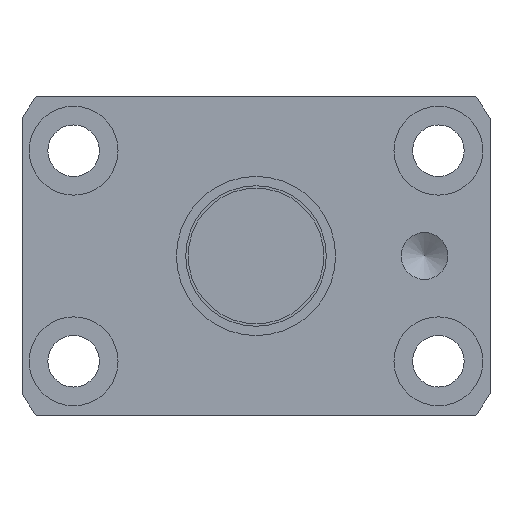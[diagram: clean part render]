
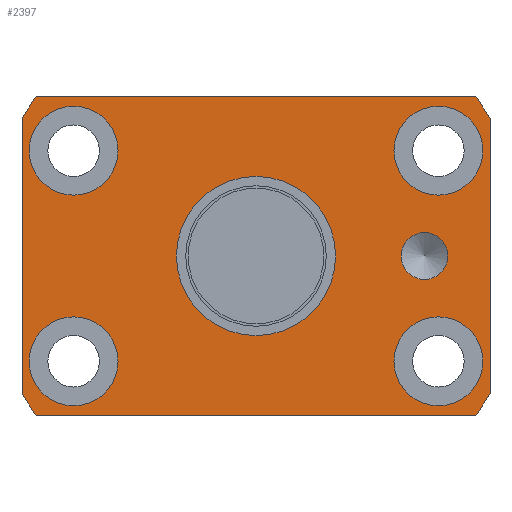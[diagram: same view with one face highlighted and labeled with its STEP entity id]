
A CAD part, left-side view. The second image highlights one B-rep face of the part: STEP entity #2397.
In plain terms, the highlighted planar face has unit normal (-1, 0, 0).
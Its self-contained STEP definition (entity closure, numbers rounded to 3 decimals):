
#18 = VERTEX_POINT ( 'NONE', #1287 ) ;
#61 = VERTEX_POINT ( 'NONE', #3125 ) ;
#92 = VERTEX_POINT ( 'NONE', #3139 ) ;
#108 = VERTEX_POINT ( 'NONE', #607 ) ;
#109 = ORIENTED_EDGE ( 'NONE', *, *, #1492, .F. ) ;
#135 = FACE_BOUND ( 'NONE', #3137, .T. ) ;
#144 = CIRCLE ( 'NONE', #2889, 29. ) ;
#149 = CIRCLE ( 'NONE', #3119, 4.75 ) ;
#153 = ORIENTED_EDGE ( 'NONE', *, *, #2236, .T. ) ;
#174 = DIRECTION ( 'NONE',  ( -1., 0., 0. ) ) ;
#217 = CARTESIAN_POINT ( 'NONE',  ( 0., 25., -14.697 ) ) ;
#223 = DIRECTION ( 'NONE',  ( 1., 0., 0. ) ) ;
#235 = VERTEX_POINT ( 'NONE', #1194 ) ;
#257 = EDGE_LOOP ( 'NONE', ( #1799 ) ) ;
#265 = AXIS2_PLACEMENT_3D ( 'NONE', #734, #174, #1741 ) ;
#279 = CARTESIAN_POINT ( 'NONE',  ( 0., -19.486, 11.25 ) ) ;
#325 = AXIS2_PLACEMENT_3D ( 'NONE', #1920, #1953, #660 ) ;
#372 = ORIENTED_EDGE ( 'NONE', *, *, #716, .F. ) ;
#384 = ORIENTED_EDGE ( 'NONE', *, *, #2533, .T. ) ;
#387 = CARTESIAN_POINT ( 'NONE',  ( 0., -25., 14.697 ) ) ;
#430 = FACE_OUTER_BOUND ( 'NONE', #2178, .T. ) ;
#435 = DIRECTION ( 'NONE',  ( 1., 0., 0. ) ) ;
#476 = VECTOR ( 'NONE', #2897, 1000. ) ;
#537 = DIRECTION ( 'NONE',  ( 0., 0., -1. ) ) ;
#559 = CARTESIAN_POINT ( 'NONE',  ( 0., -18., 2.5 ) ) ;
#578 = DIRECTION ( 'NONE',  ( 1., 0., 0. ) ) ;
#589 = VERTEX_POINT ( 'NONE', #2919 ) ;
#599 = CIRCLE ( 'NONE', #325, 4.75 ) ;
#605 = ORIENTED_EDGE ( 'NONE', *, *, #657, .F. ) ;
#607 = CARTESIAN_POINT ( 'NONE',  ( 0., -14.736, 11.25 ) ) ;
#657 = EDGE_CURVE ( 'NONE', #61, #1537, #1213, .T. ) ;
#660 = DIRECTION ( 'NONE',  ( 0., 1., 0. ) ) ;
#688 = AXIS2_PLACEMENT_3D ( 'NONE', #718, #3319, #2275 ) ;
#701 = AXIS2_PLACEMENT_3D ( 'NONE', #2015, #435, #2218 ) ;
#716 = EDGE_CURVE ( 'NONE', #1573, #1573, #2767, .T. ) ;
#718 = CARTESIAN_POINT ( 'NONE',  ( 0., 0., 0. ) ) ;
#734 = CARTESIAN_POINT ( 'NONE',  ( 0., 12.75, 0. ) ) ;
#764 = CARTESIAN_POINT ( 'NONE',  ( 0., -23.495, 17. ) ) ;
#766 = LINE ( 'NONE', #217, #2845 ) ;
#786 = DIRECTION ( 'NONE',  ( 1., 0., 0. ) ) ;
#814 = VERTEX_POINT ( 'NONE', #1858 ) ;
#818 = CIRCLE ( 'NONE', #3124, 8.5 ) ;
#861 = EDGE_LOOP ( 'NONE', ( #1102 ) ) ;
#875 = ORIENTED_EDGE ( 'NONE', *, *, #2714, .F. ) ;
#897 = CARTESIAN_POINT ( 'NONE',  ( 0., 0., 0. ) ) ;
#909 = VERTEX_POINT ( 'NONE', #2646 ) ;
#919 = AXIS2_PLACEMENT_3D ( 'NONE', #279, #223, #1370 ) ;
#980 = FACE_BOUND ( 'NONE', #2027, .T. ) ;
#1069 = DIRECTION ( 'NONE',  ( 0., 1., 0. ) ) ;
#1102 = ORIENTED_EDGE ( 'NONE', *, *, #2229, .T. ) ;
#1115 = ORIENTED_EDGE ( 'NONE', *, *, #2344, .F. ) ;
#1152 = VERTEX_POINT ( 'NONE', #2399 ) ;
#1176 = AXIS2_PLACEMENT_3D ( 'NONE', #2351, #2844, #1578 ) ;
#1194 = CARTESIAN_POINT ( 'NONE',  ( 0., -25., -14.697 ) ) ;
#1213 = LINE ( 'NONE', #3263, #1433 ) ;
#1235 = FACE_BOUND ( 'NONE', #1321, .T. ) ;
#1287 = CARTESIAN_POINT ( 'NONE',  ( 0., -23.495, -17. ) ) ;
#1303 = DIRECTION ( 'NONE',  ( 0., 1., 0. ) ) ;
#1309 = CARTESIAN_POINT ( 'NONE',  ( 0., -25., 14.697 ) ) ;
#1321 = EDGE_LOOP ( 'NONE', ( #372 ) ) ;
#1370 = DIRECTION ( 'NONE',  ( 0., 1., 0. ) ) ;
#1392 = EDGE_CURVE ( 'NONE', #92, #814, #144, .T. ) ;
#1417 = ORIENTED_EDGE ( 'NONE', *, *, #2618, .T. ) ;
#1433 = VECTOR ( 'NONE', #1995, 1000. ) ;
#1440 = CIRCLE ( 'NONE', #1176, 4.75 ) ;
#1492 = EDGE_CURVE ( 'NONE', #3170, #61, #2141, .T. ) ;
#1534 = DIRECTION ( 'NONE',  ( 0., 1., 0. ) ) ;
#1537 = VERTEX_POINT ( 'NONE', #764 ) ;
#1573 = VERTEX_POINT ( 'NONE', #559 ) ;
#1578 = DIRECTION ( 'NONE',  ( 0., 1., 0. ) ) ;
#1620 = AXIS2_PLACEMENT_3D ( 'NONE', #897, #2787, #2060 ) ;
#1635 = CARTESIAN_POINT ( 'NONE',  ( 0., -23.495, -17. ) ) ;
#1672 = CIRCLE ( 'NONE', #919, 4.75 ) ;
#1723 = FACE_BOUND ( 'NONE', #861, .T. ) ;
#1725 = ORIENTED_EDGE ( 'NONE', *, *, #2577, .F. ) ;
#1738 = ORIENTED_EDGE ( 'NONE', *, *, #2194, .F. ) ;
#1741 = DIRECTION ( 'NONE',  ( 0., 0., 1. ) ) ;
#1799 = ORIENTED_EDGE ( 'NONE', *, *, #2927, .T. ) ;
#1808 = CARTESIAN_POINT ( 'NONE',  ( 0., -18., 0. ) ) ;
#1821 = CARTESIAN_POINT ( 'NONE',  ( 0., 0., 0. ) ) ;
#1830 = VECTOR ( 'NONE', #537, 1000. ) ;
#1858 = CARTESIAN_POINT ( 'NONE',  ( 0., 25., -14.697 ) ) ;
#1920 = CARTESIAN_POINT ( 'NONE',  ( 0., 19.486, -11.25 ) ) ;
#1924 = AXIS2_PLACEMENT_3D ( 'NONE', #1808, #2261, #3072 ) ;
#1953 = DIRECTION ( 'NONE',  ( 1., 0., 0. ) ) ;
#1995 = DIRECTION ( 'NONE',  ( 0., -1., 0. ) ) ;
#2015 = CARTESIAN_POINT ( 'NONE',  ( 0., 0., 0. ) ) ;
#2027 = EDGE_LOOP ( 'NONE', ( #153 ) ) ;
#2060 = DIRECTION ( 'NONE',  ( 0., 1., 0. ) ) ;
#2139 = VERTEX_POINT ( 'NONE', #387 ) ;
#2141 = CIRCLE ( 'NONE', #688, 29. ) ;
#2178 = EDGE_LOOP ( 'NONE', ( #1115, #2426, #1725, #1738, #605, #109, #875, #2421 ) ) ;
#2194 = EDGE_CURVE ( 'NONE', #1537, #2139, #2624, .T. ) ;
#2198 = FACE_BOUND ( 'NONE', #257, .T. ) ;
#2218 = DIRECTION ( 'NONE',  ( 0., 1., 0. ) ) ;
#2226 = FACE_BOUND ( 'NONE', #3036, .T. ) ;
#2229 = EDGE_CURVE ( 'NONE', #909, #909, #149, .T. ) ;
#2236 = EDGE_CURVE ( 'NONE', #589, #589, #1440, .T. ) ;
#2247 = DIRECTION ( 'NONE',  ( 1., 0., 0. ) ) ;
#2258 = CARTESIAN_POINT ( 'NONE',  ( 0., 19.486, 11.25 ) ) ;
#2261 = DIRECTION ( 'NONE',  ( -1., 0., 0. ) ) ;
#2275 = DIRECTION ( 'NONE',  ( 0., 1., 0. ) ) ;
#2320 = LINE ( 'NONE', #1309, #1830 ) ;
#2344 = EDGE_CURVE ( 'NONE', #18, #92, #3154, .T. ) ;
#2351 = CARTESIAN_POINT ( 'NONE',  ( 0., -19.486, -11.25 ) ) ;
#2397 = ADVANCED_FACE ( 'NONE', ( #1235, #2226, #135, #980, #1723, #430, #2198 ), #2472, .T. ) ;
#2399 = CARTESIAN_POINT ( 'NONE',  ( 0., 24.236, -11.25 ) ) ;
#2421 = ORIENTED_EDGE ( 'NONE', *, *, #1392, .F. ) ;
#2426 = ORIENTED_EDGE ( 'NONE', *, *, #3280, .F. ) ;
#2472 = PLANE ( 'NONE',  #265 ) ;
#2533 = EDGE_CURVE ( 'NONE', #108, #108, #1672, .T. ) ;
#2548 = DIRECTION ( 'NONE',  ( 0., 0., 1. ) ) ;
#2577 = EDGE_CURVE ( 'NONE', #2139, #235, #2320, .T. ) ;
#2618 = EDGE_CURVE ( 'NONE', #1152, #1152, #599, .T. ) ;
#2624 = CIRCLE ( 'NONE', #1620, 29. ) ;
#2646 = CARTESIAN_POINT ( 'NONE',  ( 0., 24.236, 11.25 ) ) ;
#2677 = CIRCLE ( 'NONE', #701, 29. ) ;
#2692 = VERTEX_POINT ( 'NONE', #3193 ) ;
#2714 = EDGE_CURVE ( 'NONE', #814, #3170, #766, .T. ) ;
#2767 = CIRCLE ( 'NONE', #1924, 2.5 ) ;
#2787 = DIRECTION ( 'NONE',  ( 1., 0., 0. ) ) ;
#2796 = CARTESIAN_POINT ( 'NONE',  ( 0., 0., 0. ) ) ;
#2844 = DIRECTION ( 'NONE',  ( 1., 0., 0. ) ) ;
#2845 = VECTOR ( 'NONE', #2548, 1000. ) ;
#2889 = AXIS2_PLACEMENT_3D ( 'NONE', #2796, #2247, #1534 ) ;
#2897 = DIRECTION ( 'NONE',  ( 0., 1., 0. ) ) ;
#2919 = CARTESIAN_POINT ( 'NONE',  ( 0., -14.736, -11.25 ) ) ;
#2927 = EDGE_CURVE ( 'NONE', #2692, #2692, #818, .T. ) ;
#3036 = EDGE_LOOP ( 'NONE', ( #1417 ) ) ;
#3072 = DIRECTION ( 'NONE',  ( 0., 0., 1. ) ) ;
#3119 = AXIS2_PLACEMENT_3D ( 'NONE', #2258, #786, #1303 ) ;
#3124 = AXIS2_PLACEMENT_3D ( 'NONE', #1821, #578, #1069 ) ;
#3125 = CARTESIAN_POINT ( 'NONE',  ( 0., 23.495, 17. ) ) ;
#3137 = EDGE_LOOP ( 'NONE', ( #384 ) ) ;
#3139 = CARTESIAN_POINT ( 'NONE',  ( 0., 23.495, -17. ) ) ;
#3154 = LINE ( 'NONE', #1635, #476 ) ;
#3166 = CARTESIAN_POINT ( 'NONE',  ( 0., 25., 14.697 ) ) ;
#3170 = VERTEX_POINT ( 'NONE', #3166 ) ;
#3193 = CARTESIAN_POINT ( 'NONE',  ( 0., 8.5, 0. ) ) ;
#3263 = CARTESIAN_POINT ( 'NONE',  ( 0., 23.495, 17. ) ) ;
#3280 = EDGE_CURVE ( 'NONE', #235, #18, #2677, .T. ) ;
#3319 = DIRECTION ( 'NONE',  ( 1., 0., 0. ) ) ;
